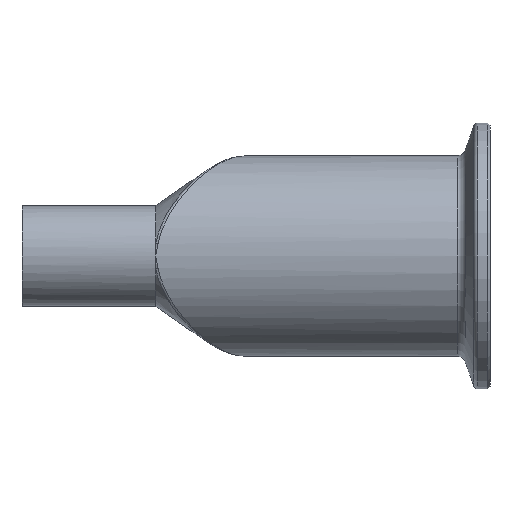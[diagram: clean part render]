
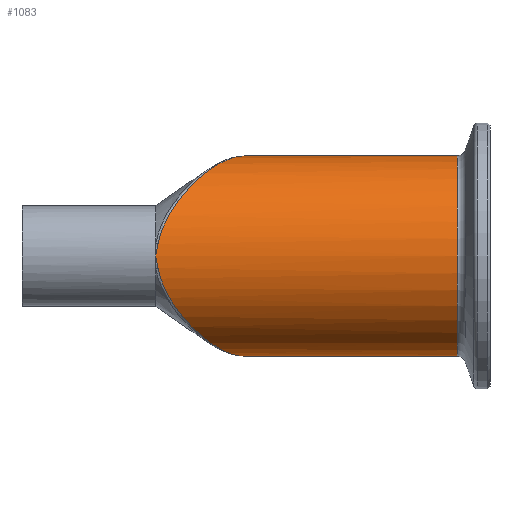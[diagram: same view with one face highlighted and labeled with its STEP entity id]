
A CAD part, front view. The second image highlights one B-rep face of the part: STEP entity #1083.
In plain terms, the highlighted cylindrical face has radius 19.05 mm (diameter 38.1 mm), a partial arc.
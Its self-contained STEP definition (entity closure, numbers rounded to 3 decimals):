
#28 = CYLINDRICAL_SURFACE ( 'NONE', #2049, 19.05 ) ;
#58 = CARTESIAN_POINT ( 'NONE',  ( -15.886, -16.871, -8.866 ) ) ;
#66 = CARTESIAN_POINT ( 'NONE',  ( -3.713, -2.833, -18.847 ) ) ;
#84 = B_SPLINE_CURVE_WITH_KNOTS ( 'NONE', 3,
 ( #2137, #430, #1990, #966, #2155, #1148, #58, #1317, #249, #1480, #440, #1675, #614, #1838, #799, #1999, #972, #2164, #1154, #66, #1325, #256, #1490, #450 ),
 .UNSPECIFIED., .F., .F.,
 ( 4, 2, 2, 2, 2, 2, 2, 2, 2, 2, 2, 4 ),
 ( 0., 0.004, 0.006, 0.008, 0.01, 0.012, 0.016, 0.02, 0.024, 0.028, 0.03, 0.033 ),
 .UNSPECIFIED. ) ;
#169 = ORIENTED_EDGE ( 'NONE', *, *, #1412, .T. ) ;
#234 = CARTESIAN_POINT ( 'NONE',  ( -18.598, -18.913, 2.284 ) ) ;
#247 = CARTESIAN_POINT ( 'NONE',  ( -18.479, -18.832, 2.955 ) ) ;
#249 = CARTESIAN_POINT ( 'NONE',  ( -14.853, -15.989, -10.372 ) ) ;
#250 = ORIENTED_EDGE ( 'NONE', *, *, #366, .T. ) ;
#256 = CARTESIAN_POINT ( 'NONE',  ( -2.59, -1.136, -19.025 ) ) ;
#265 = EDGE_LOOP ( 'NONE', ( #807, #388, #883, #250, #1200, #169, #714 ) ) ;
#272 = CARTESIAN_POINT ( 'NONE',  ( -18.313, -18.717, 3.604 ) ) ;
#280 = CARTESIAN_POINT ( 'NONE',  ( 38.223, 0., 19.05 ) ) ;
#281 = CARTESIAN_POINT ( 'NONE',  ( -18.008, -18.501, 4.55 ) ) ;
#290 = CARTESIAN_POINT ( 'NONE',  ( -17.897, -18.422, 4.862 ) ) ;
#303 = CARTESIAN_POINT ( 'NONE',  ( -17.658, -18.249, 5.476 ) ) ;
#309 = VECTOR ( 'NONE', #631, 1000. ) ;
#313 = CARTESIAN_POINT ( 'NONE',  ( -17.53, -18.155, 5.779 ) ) ;
#321 = CARTESIAN_POINT ( 'NONE',  ( -14.844, -15.981, 10.385 ) ) ;
#327 = CARTESIAN_POINT ( 'NONE',  ( -14.118, -15.327, 11.328 ) ) ;
#337 = CARTESIAN_POINT ( 'NONE',  ( -13.75, -14.984, 11.778 ) ) ;
#366 = EDGE_CURVE ( 'NONE', #1355, #897, #1684, .T. ) ;
#367 = CARTESIAN_POINT ( 'NONE',  ( -12.63, -13.907, 13.067 ) ) ;
#377 = CARTESIAN_POINT ( 'NONE',  ( -11.866, -13.127, 13.849 ) ) ;
#388 = ORIENTED_EDGE ( 'NONE', *, *, #1924, .T. ) ;
#399 = CARTESIAN_POINT ( 'NONE',  ( -10.702, -11.866, 14.914 ) ) ;
#410 = CARTESIAN_POINT ( 'NONE',  ( -10.311, -11.43, 15.25 ) ) ;
#419 = CARTESIAN_POINT ( 'NONE',  ( -9.523, -10.526, 15.887 ) ) ;
#428 = CARTESIAN_POINT ( 'NONE',  ( -9.126, -10.058, 16.188 ) ) ;
#430 = CARTESIAN_POINT ( 'NONE',  ( -18.36, -18.75, -3.627 ) ) ;
#437 = CARTESIAN_POINT ( 'NONE',  ( -7.945, -8.628, 17.02 ) ) ;
#440 = CARTESIAN_POINT ( 'NONE',  ( -13.753, -14.987, -11.773 ) ) ;
#447 = CARTESIAN_POINT ( 'NONE',  ( -7.165, -7.634, 17.488 ) ) ;
#450 = CARTESIAN_POINT ( 'NONE',  ( -1.864, 0., -19.05 ) ) ;
#457 = CARTESIAN_POINT ( 'NONE',  ( -6.004, -6.083, 18.061 ) ) ;
#458 = CARTESIAN_POINT ( 'NONE',  ( -47.684, 0., -19.05 ) ) ;
#471 = CARTESIAN_POINT ( 'NONE',  ( -5.619, -5.555, 18.23 ) ) ;
#482 = CARTESIAN_POINT ( 'NONE',  ( -4.85, -4.48, 18.524 ) ) ;
#490 = CARTESIAN_POINT ( 'NONE',  ( -4.466, -3.931, 18.649 ) ) ;
#531 = CARTESIAN_POINT ( 'NONE',  ( -3.325, -2.266, 18.948 ) ) ;
#556 = CARTESIAN_POINT ( 'NONE',  ( -2.586, -1.14, 19.05 ) ) ;
#609 = CARTESIAN_POINT ( 'NONE',  ( -1.864, 0., 19.05 ) ) ;
#614 = CARTESIAN_POINT ( 'NONE',  ( -11.859, -13.121, -13.855 ) ) ;
#620 = CARTESIAN_POINT ( 'NONE',  ( -18.892, -19.05, -0.761 ) ) ;
#631 = DIRECTION ( 'NONE',  ( -1., 0., 0. ) ) ;
#637 = CARTESIAN_POINT ( 'NONE',  ( -18.733, -19.004, -1.523 ) ) ;
#640 = CARTESIAN_POINT ( 'NONE',  ( -18.598, -18.913, -2.284 ) ) ;
#714 = ORIENTED_EDGE ( 'NONE', *, *, #2102, .T. ) ;
#766 = VERTEX_POINT ( 'NONE', #973 ) ;
#771 = EDGE_CURVE ( 'NONE', #1375, #1355, #918, .T. ) ;
#794 = B_SPLINE_CURVE_WITH_KNOTS ( 'NONE', 3,
 ( #1058, #620, #637, #640 ),
 .UNSPECIFIED., .F., .F.,
 ( 4, 4 ),
 ( 0., 0.002 ),
 .UNSPECIFIED. ) ;
#799 = CARTESIAN_POINT ( 'NONE',  ( -9.525, -10.541, -15.907 ) ) ;
#802 = CARTESIAN_POINT ( 'NONE',  ( -1.864, 0., 19.05 ) ) ;
#807 = ORIENTED_EDGE ( 'NONE', *, *, #2200, .F. ) ;
#810 = DIRECTION ( 'NONE',  ( -1., 0., 0. ) ) ;
#843 = EDGE_CURVE ( 'NONE', #897, #1648, #1180, .T. ) ;
#883 = ORIENTED_EDGE ( 'NONE', *, *, #771, .T. ) ;
#897 = VERTEX_POINT ( 'NONE', #1714 ) ;
#918 = LINE ( 'NONE', #1011, #2228 ) ;
#941 = VERTEX_POINT ( 'NONE', #1310 ) ;
#966 = CARTESIAN_POINT ( 'NONE',  ( -17.128, -17.855, -6.669 ) ) ;
#972 = CARTESIAN_POINT ( 'NONE',  ( -7.158, -7.625, -17.492 ) ) ;
#973 = CARTESIAN_POINT ( 'NONE',  ( 38.223, 0., -19.05 ) ) ;
#1011 = CARTESIAN_POINT ( 'NONE',  ( -47.684, 0., 19.05 ) ) ;
#1017 = DIRECTION ( 'NONE',  ( -1., 0., 0. ) ) ;
#1058 = CARTESIAN_POINT ( 'NONE',  ( -19.05, -19.05, 0. ) ) ;
#1079 = CARTESIAN_POINT ( 'NONE',  ( -18.598, -18.913, 2.284 ) ) ;
#1083 = ADVANCED_FACE ( 'NONE', ( #1920 ), #28, .T. ) ;
#1103 = VERTEX_POINT ( 'NONE', #2123 ) ;
#1148 = CARTESIAN_POINT ( 'NONE',  ( -16.213, -17.138, -8.339 ) ) ;
#1150 = CARTESIAN_POINT ( 'NONE',  ( -18.733, -19.004, 1.523 ) ) ;
#1154 = CARTESIAN_POINT ( 'NONE',  ( -4.849, -4.49, -18.547 ) ) ;
#1180 = B_SPLINE_CURVE_WITH_KNOTS ( 'NONE', 3,
 ( #1079, #1150, #1208, #1212 ),
 .UNSPECIFIED., .F., .F.,
 ( 4, 4 ),
 ( 0., 0.002 ),
 .UNSPECIFIED. ) ;
#1195 = CARTESIAN_POINT ( 'NONE',  ( -15.201, -16.292, 9.89 ) ) ;
#1200 = ORIENTED_EDGE ( 'NONE', *, *, #843, .T. ) ;
#1206 = CARTESIAN_POINT ( 'NONE',  ( -16.226, -17.159, 8.358 ) ) ;
#1208 = CARTESIAN_POINT ( 'NONE',  ( -18.892, -19.05, 0.762 ) ) ;
#1212 = CARTESIAN_POINT ( 'NONE',  ( -19.05, -19.05, 0. ) ) ;
#1220 = CARTESIAN_POINT ( 'NONE',  ( -16.858, -17.654, 7.267 ) ) ;
#1310 = CARTESIAN_POINT ( 'NONE',  ( -18.598, -18.913, -2.284 ) ) ;
#1317 = CARTESIAN_POINT ( 'NONE',  ( -15.206, -16.297, -9.883 ) ) ;
#1325 = CARTESIAN_POINT ( 'NONE',  ( -3.335, -2.268, -18.923 ) ) ;
#1355 = VERTEX_POINT ( 'NONE', #609 ) ;
#1375 = VERTEX_POINT ( 'NONE', #280 ) ;
#1412 = EDGE_CURVE ( 'NONE', #1648, #941, #794, .T. ) ;
#1480 = CARTESIAN_POINT ( 'NONE',  ( -14.127, -15.335, -11.317 ) ) ;
#1490 = CARTESIAN_POINT ( 'NONE',  ( -2.224, -0.569, -19.05 ) ) ;
#1648 = VERTEX_POINT ( 'NONE', #2085 ) ;
#1675 = CARTESIAN_POINT ( 'NONE',  ( -12.626, -13.903, -13.072 ) ) ;
#1684 = B_SPLINE_CURVE_WITH_KNOTS ( 'NONE', 3,
 ( #802, #556, #531, #490, #482, #471, #457, #447, #437, #428, #419, #410, #399, #377, #367, #337, #327, #321, #1195, #1206, #1220, #313, #303, #290, #281, #272, #247, #234 ),
 .UNSPECIFIED., .F., .F.,
 ( 4, 2, 2, 2, 2, 2, 2, 2, 2, 2, 2, 2, 2, 4 ),
 ( 0.097, 0.101, 0.103, 0.105, 0.109, 0.111, 0.113, 0.117, 0.119, 0.121, 0.125, 0.126, 0.127, 0.129 ),
 .UNSPECIFIED. ) ;
#1712 = CARTESIAN_POINT ( 'NONE',  ( 38.223, 0., 0. ) ) ;
#1714 = CARTESIAN_POINT ( 'NONE',  ( -18.598, -18.913, 2.284 ) ) ;
#1838 = CARTESIAN_POINT ( 'NONE',  ( -10.309, -11.439, -15.273 ) ) ;
#1866 = DIRECTION ( 'NONE',  ( -1., 0., 0. ) ) ;
#1873 = DIRECTION ( 'NONE',  ( 0., 0., 1. ) ) ;
#1879 = LINE ( 'NONE', #458, #309 ) ;
#1920 = FACE_OUTER_BOUND ( 'NONE', #265, .T. ) ;
#1924 = EDGE_CURVE ( 'NONE', #766, #1375, #1965, .T. ) ;
#1965 = CIRCLE ( 'NONE', #2210, 19.05 ) ;
#1990 = CARTESIAN_POINT ( 'NONE',  ( -17.935, -18.457, -4.881 ) ) ;
#1999 = CARTESIAN_POINT ( 'NONE',  ( -7.94, -8.622, -17.023 ) ) ;
#2049 = AXIS2_PLACEMENT_3D ( 'NONE', #2207, #810, #2211 ) ;
#2085 = CARTESIAN_POINT ( 'NONE',  ( -19.05, -19.05, 0. ) ) ;
#2102 = EDGE_CURVE ( 'NONE', #941, #1103, #84, .T. ) ;
#2123 = CARTESIAN_POINT ( 'NONE',  ( -1.864, 0., -19.05 ) ) ;
#2137 = CARTESIAN_POINT ( 'NONE',  ( -18.598, -18.913, -2.284 ) ) ;
#2155 = CARTESIAN_POINT ( 'NONE',  ( -16.834, -17.63, -7.242 ) ) ;
#2164 = CARTESIAN_POINT ( 'NONE',  ( -5.613, -5.559, -18.254 ) ) ;
#2200 = EDGE_CURVE ( 'NONE', #766, #1103, #1879, .T. ) ;
#2207 = CARTESIAN_POINT ( 'NONE',  ( -47.684, 0., 0. ) ) ;
#2210 = AXIS2_PLACEMENT_3D ( 'NONE', #1712, #1866, #1873 ) ;
#2211 = DIRECTION ( 'NONE',  ( 0., 0., 1. ) ) ;
#2228 = VECTOR ( 'NONE', #1017, 1000. ) ;
